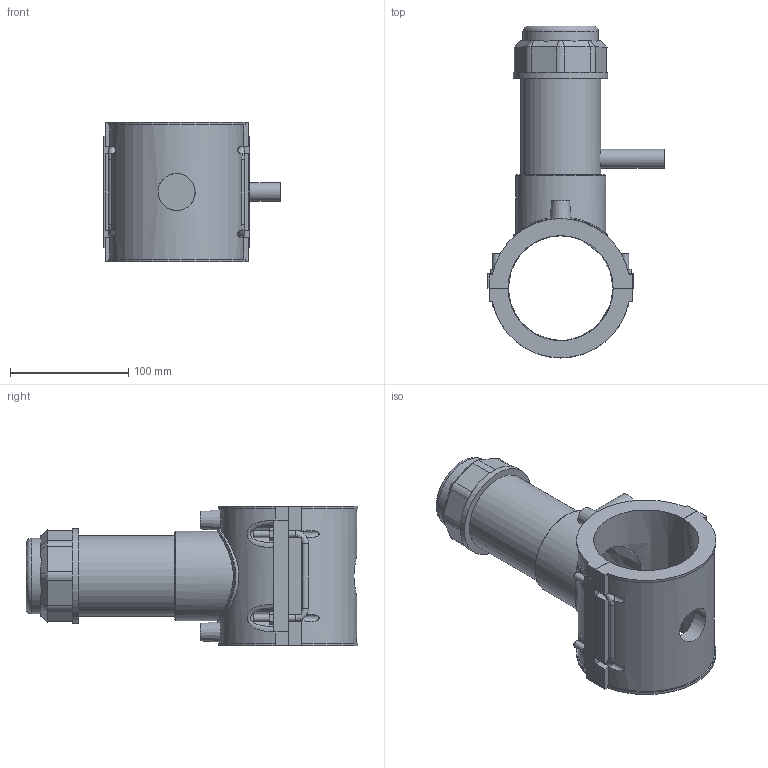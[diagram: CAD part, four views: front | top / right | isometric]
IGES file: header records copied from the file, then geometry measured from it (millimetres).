
Global section: file name: 5963BU03030005.ipt; native system: Autodesk Inventor 2019; preprocessor: unknown; author: KIM; date: 20210830.101450; units: millimetre
Bounding box: 148.83 x 280.2 x 118.11 mm (x, y, z)
Volume: 851549.5 mm3; surface area: 170205.2 mm2
Topology: 1 solids, 1 shells, 210 faces, 552 edges, 361 vertices
Faces by surface type: plane 128, cylinder 37, revolution 24, cone 15, bspline 6
Full cylindrical faces by diameter (mm): 4 x2, 6 x8, 15.8 x1, 63.864 x1, 67.856 x1, 75.838 x1, 79.83 x1
